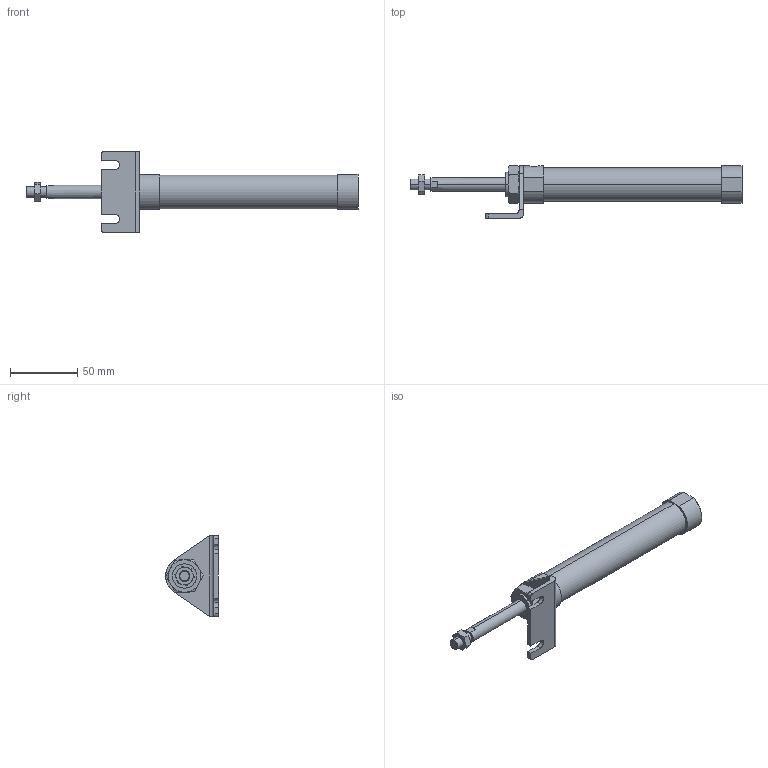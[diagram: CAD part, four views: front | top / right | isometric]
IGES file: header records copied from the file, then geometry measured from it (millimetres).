
Start section: SolidWorks IGES file using analytic representation for surfaces
Global section: file name: C:\Users\Toshiba\Desktop\JGND0-20-50-L.IGS; native system: SolidWorks 2014; preprocessor: SolidWorks 2014; author: Toshiba; date: 160804.100726; units: millimetre
Bounding box: 246 x 39 x 60 mm (x, y, z)
Surface area: 25900.5 mm2 (no closed solid volume)
Topology: 0 solids, 0 shells, 108 faces, 1708 edges, 1708 vertices
Faces by surface type: bspline 72, revolution 36
